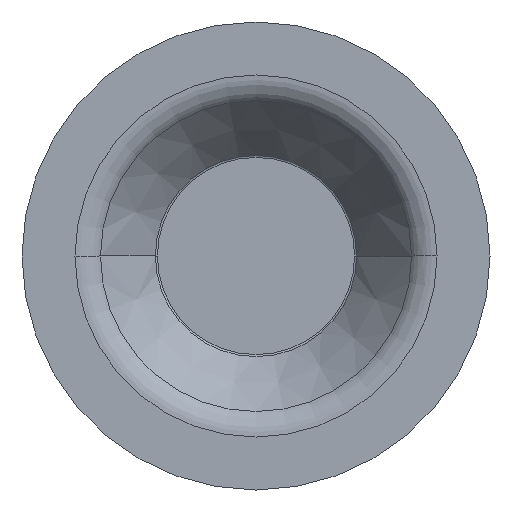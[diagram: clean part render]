
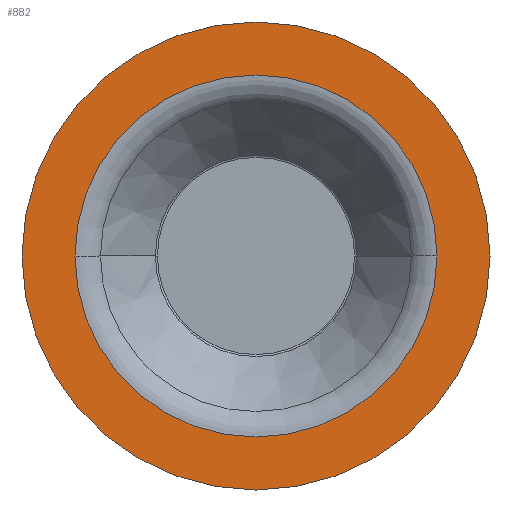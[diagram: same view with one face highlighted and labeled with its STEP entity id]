
A CAD part, front view. The second image highlights one B-rep face of the part: STEP entity #882.
In plain terms, the highlighted planar face has unit normal (0, -1, 0).
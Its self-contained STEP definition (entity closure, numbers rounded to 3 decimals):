
#14 = CIRCLE ( 'NONE', #1418, 36.744 ) ;
#75 = DIRECTION ( 'NONE',  ( 1., 0., 0. ) ) ;
#80 = EDGE_CURVE ( 'NONE', #596, #1040, #14, .T. ) ;
#167 = EDGE_LOOP ( 'NONE', ( #693, #195 ) ) ;
#195 = ORIENTED_EDGE ( 'NONE', *, *, #381, .T. ) ;
#213 = CARTESIAN_POINT ( 'NONE',  ( -47.5, -22., 0. ) ) ;
#283 = DIRECTION ( 'NONE',  ( 1., 0., 0. ) ) ;
#347 = DIRECTION ( 'NONE',  ( 0., -1., 0. ) ) ;
#352 = CIRCLE ( 'NONE', #451, 47.5 ) ;
#357 = DIRECTION ( 'NONE',  ( 1., 0., 0. ) ) ;
#364 = PLANE ( 'NONE',  #1373 ) ;
#381 = EDGE_CURVE ( 'NONE', #1274, #906, #352, .T. ) ;
#438 = DIRECTION ( 'NONE',  ( 0., -1., 0. ) ) ;
#451 = AXIS2_PLACEMENT_3D ( 'NONE', #1434, #1426, #283 ) ;
#472 = DIRECTION ( 'NONE',  ( -1., 0., 0. ) ) ;
#532 = CARTESIAN_POINT ( 'NONE',  ( 0., -22., 0. ) ) ;
#543 = CARTESIAN_POINT ( 'NONE',  ( -36.744, -22., 0. ) ) ;
#554 = ORIENTED_EDGE ( 'NONE', *, *, #80, .F. ) ;
#572 = EDGE_LOOP ( 'NONE', ( #685, #554 ) ) ;
#573 = EDGE_CURVE ( 'NONE', #1040, #596, #1301, .T. ) ;
#580 = DIRECTION ( 'NONE',  ( 0., -1., 0. ) ) ;
#596 = VERTEX_POINT ( 'NONE', #1158 ) ;
#685 = ORIENTED_EDGE ( 'NONE', *, *, #573, .F. ) ;
#693 = ORIENTED_EDGE ( 'NONE', *, *, #1142, .T. ) ;
#743 = CARTESIAN_POINT ( 'NONE',  ( 47.5, -22., 0. ) ) ;
#882 = ADVANCED_FACE ( 'NONE', ( #1496, #1639 ), #364, .T. ) ;
#906 = VERTEX_POINT ( 'NONE', #743 ) ;
#908 = DIRECTION ( 'NONE',  ( 0., -1., 0. ) ) ;
#960 = CIRCLE ( 'NONE', #1358, 47.5 ) ;
#1040 = VERTEX_POINT ( 'NONE', #543 ) ;
#1100 = AXIS2_PLACEMENT_3D ( 'NONE', #532, #908, #1420 ) ;
#1142 = EDGE_CURVE ( 'NONE', #906, #1274, #960, .T. ) ;
#1158 = CARTESIAN_POINT ( 'NONE',  ( 36.744, -22., 0. ) ) ;
#1274 = VERTEX_POINT ( 'NONE', #213 ) ;
#1291 = CARTESIAN_POINT ( 'NONE',  ( 0., -22., 0. ) ) ;
#1301 = CIRCLE ( 'NONE', #1100, 36.744 ) ;
#1358 = AXIS2_PLACEMENT_3D ( 'NONE', #1291, #438, #75 ) ;
#1373 = AXIS2_PLACEMENT_3D ( 'NONE', #1522, #347, #357 ) ;
#1418 = AXIS2_PLACEMENT_3D ( 'NONE', #1479, #580, #472 ) ;
#1420 = DIRECTION ( 'NONE',  ( -1., 0., 0. ) ) ;
#1426 = DIRECTION ( 'NONE',  ( 0., -1., 0. ) ) ;
#1434 = CARTESIAN_POINT ( 'NONE',  ( 0., -22., 0. ) ) ;
#1479 = CARTESIAN_POINT ( 'NONE',  ( 0., -22., 0. ) ) ;
#1496 = FACE_BOUND ( 'NONE', #572, .T. ) ;
#1522 = CARTESIAN_POINT ( 'NONE',  ( 47.5, -22., 0. ) ) ;
#1639 = FACE_OUTER_BOUND ( 'NONE', #167, .T. ) ;
